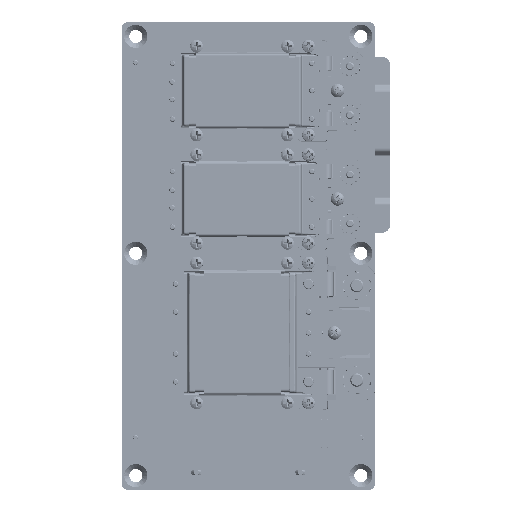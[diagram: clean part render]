
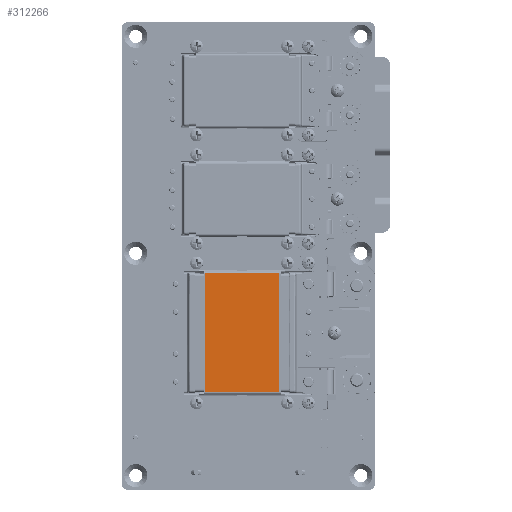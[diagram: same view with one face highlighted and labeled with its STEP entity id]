
A CAD part, top view. The second image highlights one B-rep face of the part: STEP entity #312266.
In plain terms, the highlighted planar face has unit normal (0, 0, 1).
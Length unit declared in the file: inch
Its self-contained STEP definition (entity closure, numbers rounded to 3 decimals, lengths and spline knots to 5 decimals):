
#5446 = CARTESIAN_POINT ( 'NONE',  ( -2.43668, -0.25122, 0.72245 ) ) ;
#5447 = CARTESIAN_POINT ( 'NONE',  ( -1.36347, -0.25122, 0.72245 ) ) ;
#5448 = CARTESIAN_POINT ( 'NONE',  ( -2.43668, -1.95632, 0.72245 ) ) ;
#5450 = CARTESIAN_POINT ( 'NONE',  ( -1.36347, -1.95632, 0.72245 ) ) ;
#86277 = ORIENTED_EDGE ( 'NONE', *, *, #142762, .F. ) ;
#86279 = ORIENTED_EDGE ( 'NONE', *, *, #142764, .F. ) ;
#86280 = ORIENTED_EDGE ( 'NONE', *, *, #142759, .F. ) ;
#86281 = ORIENTED_EDGE ( 'NONE', *, *, #142766, .F. ) ;
#101369 = AXIS2_PLACEMENT_3D ( 'NONE', #131633, #131634, #131635 ) ;
#131631 = PLANE ( 'NONE',  #101369 ) ;
#131633 = CARTESIAN_POINT ( 'NONE',  ( -2.40399, -1.88536, 0.72245 ) ) ;
#131634 = DIRECTION ( 'NONE',  ( 0., 0., 1. ) ) ;
#131635 = DIRECTION ( 'NONE',  ( 1., 0., 0. ) ) ;
#132510 = FACE_OUTER_BOUND ( 'NONE', #253110, .T. ) ;
#142759 = EDGE_CURVE ( 'NONE', #306270, #306278, #358413, .T. ) ;
#142762 = EDGE_CURVE ( 'NONE', #306278, #306274, #358415, .T. ) ;
#142764 = EDGE_CURVE ( 'NONE', #306266, #306270, #358418, .T. ) ;
#142766 = EDGE_CURVE ( 'NONE', #306274, #306266, #358420, .T. ) ;
#253110 = EDGE_LOOP ( 'NONE', ( #86277, #86280, #86279, #86281 ) ) ;
#306266 = VERTEX_POINT ( 'NONE', #5446 ) ;
#306270 = VERTEX_POINT ( 'NONE', #5447 ) ;
#306274 = VERTEX_POINT ( 'NONE', #5448 ) ;
#306278 = VERTEX_POINT ( 'NONE', #5450 ) ;
#312266 = ADVANCED_FACE ( 'NONE', ( #132510 ), #131631, .T. ) ;
#351917 = VECTOR ( 'NONE', #371567, 39.37008 ) ;
#351924 = VECTOR ( 'NONE', #371571, 39.37008 ) ;
#351932 = VECTOR ( 'NONE', #371575, 39.37008 ) ;
#351936 = VECTOR ( 'NONE', #371581, 39.37008 ) ;
#358413 = LINE ( 'NONE', #371563, #351917 ) ;
#358415 = LINE ( 'NONE', #371569, #351924 ) ;
#358418 = LINE ( 'NONE', #371573, #351932 ) ;
#358420 = LINE ( 'NONE', #371579, #351936 ) ;
#371563 = CARTESIAN_POINT ( 'NONE',  ( -1.36347, -1.95508, 0.72245 ) ) ;
#371567 = DIRECTION ( 'NONE',  ( 0., -1., 0. ) ) ;
#371569 = CARTESIAN_POINT ( 'NONE',  ( -2.45173, -1.95632, 0.72245 ) ) ;
#371571 = DIRECTION ( 'NONE',  ( -1., 0., 0. ) ) ;
#371573 = CARTESIAN_POINT ( 'NONE',  ( -1.34843, -0.25122, 0.72245 ) ) ;
#371575 = DIRECTION ( 'NONE',  ( 1., 0., 0. ) ) ;
#371579 = CARTESIAN_POINT ( 'NONE',  ( -2.43668, -0.25247, 0.72245 ) ) ;
#371581 = DIRECTION ( 'NONE',  ( 0., 1., 0. ) ) ;
